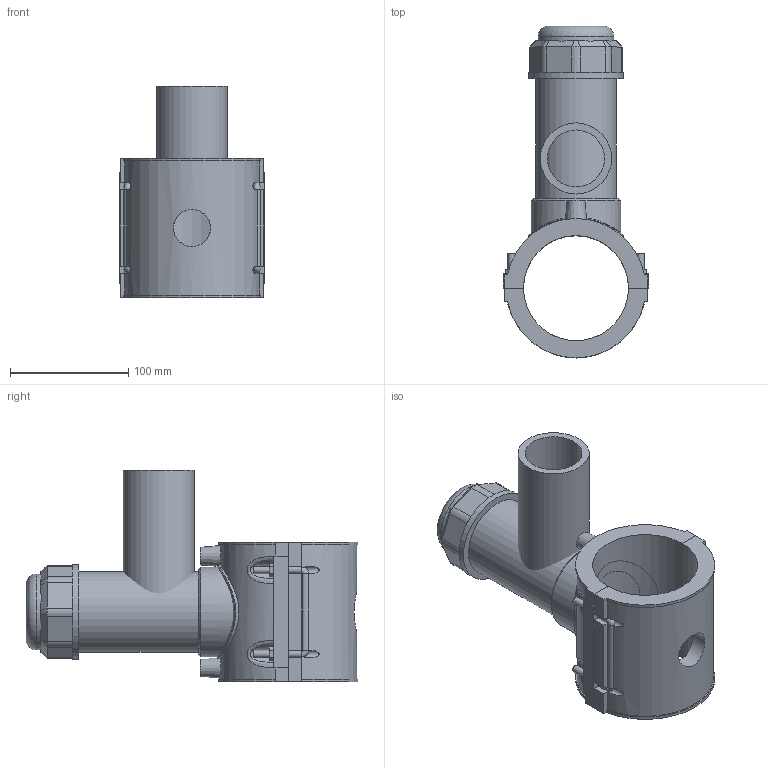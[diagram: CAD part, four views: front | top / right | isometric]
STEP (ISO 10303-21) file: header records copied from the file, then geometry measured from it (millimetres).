
FILE_DESCRIPTION(/* description */ ('PLASSON TAPPING SADDLE 3''''IPS x 2''''IPS'),/* implementation_level */ '2;1');
FILE_NAME(/* name */ 'C:\Dropbox\KIMPROJECTS-Inventor 2019\99-16-3568-Processing Inch\ASTM ElectroFusion 2021\5963BBP_5963BUP\5963BBP3030020.ipt.stp',/* time_stamp */ '2021-08-30T09:56:59+03:00',/* author */ ('KIM'),/* organization */ (''),/* preprocessor_version */ 'ST-DEVELOPER v17.2',/* originating_system */ 'Autodesk Inventor 2019',/* authorisation */ '');
FILE_SCHEMA (('AUTOMOTIVE_DESIGN { 1 0 10303 214 3 1 1 }'));
Length unit declared in the file: inch
Products named in the file (1): 5963BBP3030020
Bounding box: 122.9 x 280.2 x 178.94 mm (x, y, z)
Volume: 1027404.7 mm3; surface area: 221054.7 mm2
Topology: 3 solids, 3 shells, 204 faces, 543 edges, 356 vertices
Faces by surface type: plane 125, cylinder 53, cone 15, bspline 10, torus 1
Full cylindrical faces by diameter (mm): 4 x2, 6 x8, 10 x2, 31.36 x1, 48.08 x1, 55.881 x1, 60.1 x1, 63.864 x1, 67.856 x1, 75.839 x1, 79.83 x1
Entity records: 7875 total; most frequent: CARTESIAN_POINT 2739, ORIENTED_EDGE 1086, DIRECTION 1022, EDGE_CURVE 543, VERTEX_POINT 356, AXIS2_PLACEMENT_3D 351, LINE 320, VECTOR 320
